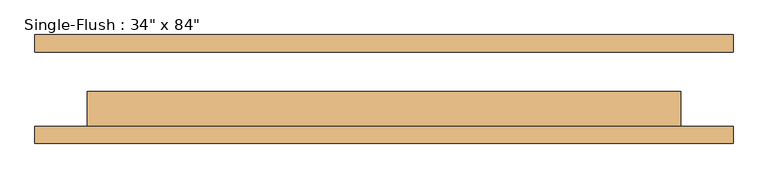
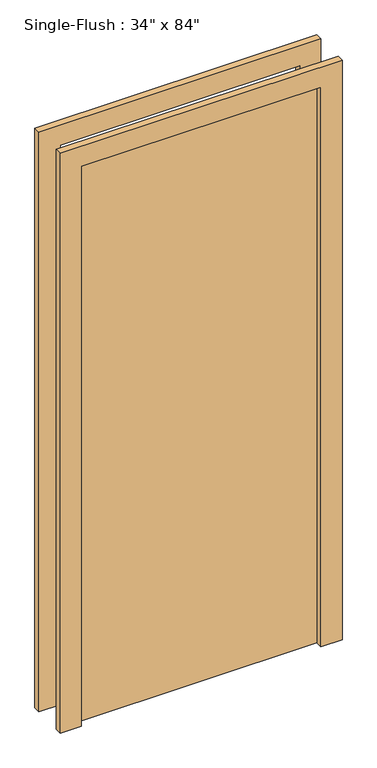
"""IFC4 building model written with IfcOpenShell, lengths in millimetres: door geometry."""

import ifcopenshell
import ifcopenshell.guid

model = None  # the IFC model being written
_history = None  # IfcOwnerHistory: only IFC2X3 demands one
_inside = {}  # id of a spatial element -> (the spatial element, [elements in it])
_under = {}  # id of a project, library or spatial element -> (it, [spatial elements below it])
_declared = {}  # id of a project -> (the project, [libraries it declares])
_typed = {}  # id of a type object -> (the type object, [elements of that type])
_made_of = {}  # id of a material, layer set ... -> (it, [elements and type objects made of it])


def new_model(schema):
    """Start an empty IFC model of exactly this schema.

    Asked for "IFC4X3", IfcOpenShell would pick the latest addendum, in which some entities
    have other attributes; the version numbers below select the first issue.
    IFC2X3 requires an IfcOwnerHistory on every rooted entity: one is made here for all.
    """
    global model, _history
    if schema == "IFC4X3":
        model = ifcopenshell.file(schema_version=(4, 3, 0, 0))
    else:
        model = ifcopenshell.file(schema=schema)
    _inside.clear()
    _under.clear()
    _declared.clear()
    _typed.clear()
    _made_of.clear()
    _history = None
    if model.schema == "IFC2X3":
        org = make("IfcOrganization", Name="unknown")
        user = make(
            "IfcPersonAndOrganization",
            ThePerson=make("IfcPerson", FamilyName="unknown"),
            TheOrganization=org,
        )
        app = make(
            "IfcApplication",
            ApplicationDeveloper=org,
            Version="unknown",
            ApplicationFullName="unknown",
            ApplicationIdentifier="unknown",
        )
        _history = make(
            "IfcOwnerHistory",
            OwningUser=user,
            OwningApplication=app,
            ChangeAction="ADDED",
            CreationDate=0,
        )
    return model


def make(cls, **values):
    """One entity of the class cls with the attributes given. An attribute that is None is left unset."""
    return model.create_entity(
        cls, **{name: value for name, value in values.items() if value is not None}
    )


def rooted(cls, **values):
    """An entity with a GlobalId (a new one), such as an element, a storey or a relation."""
    return make(cls, GlobalId=ifcopenshell.guid.new(), OwnerHistory=_history, **values)


def si_unit(unit_type, name, prefix=None):
    """IfcSIUnit, for example si_unit("LENGTHUNIT", "METRE", prefix="MILLI")."""
    return make("IfcSIUnit", UnitType=unit_type, Prefix=prefix, Name=name)


def assignment(units):
    """IfcUnitAssignment: the units of a project."""
    return None if units is None else make("IfcUnitAssignment", Units=units)


def point(xyz):
    """IfcCartesianPoint."""
    return None if xyz is None else make("IfcCartesianPoint", Coordinates=xyz)


def direction(xyz):
    """IfcDirection."""
    return None if xyz is None else make("IfcDirection", DirectionRatios=xyz)


def frame(location, z_axis=None, x_axis=None):
    """IfcAxis2Placement3D, a coordinate frame: its origin and axes. An axis left out is left unset."""
    return make(
        "IfcAxis2Placement3D",
        Location=point(location),
        Axis=direction(z_axis),
        RefDirection=direction(x_axis),
    )


def origin():
    """The frame at (0, 0, 0) with its axes left unset."""
    return frame((0.0, 0.0, 0.0))


def origin_with_axes():
    """The frame at (0, 0, 0) with the z axis (0, 0, 1) and the x axis (1, 0, 0) written out."""
    return frame((0.0, 0.0, 0.0), z_axis=(0.0, 0.0, 1.0), x_axis=(1.0, 0.0, 0.0))


def place(relative_to, where):
    """IfcLocalPlacement: puts the frame where relative to a parent placement (None: the world)."""
    return make(
        "IfcLocalPlacement", PlacementRelTo=relative_to, RelativePlacement=where
    )


def context(
    kind, dimensions, precision=None, world=None, true_north=None, identifier=None
):
    """IfcGeometricRepresentationContext, for example the 3D "Model" context."""
    return make(
        "IfcGeometricRepresentationContext",
        ContextIdentifier=identifier,
        ContextType=kind,
        CoordinateSpaceDimension=dimensions,
        Precision=precision,
        WorldCoordinateSystem=world,
        TrueNorth=true_north,
    )


def project(units=None, contexts=None):
    """IfcProject with its units and contexts."""
    return rooted(
        "IfcProject",
        Name="project",
        RepresentationContexts=contexts,
        UnitsInContext=assignment(units),
    )


def spatial(cls, under=None, at=None, **own):
    """A site, building, storey or space (cls), placed at a placement, below another one or the project."""
    s = rooted(cls, ObjectPlacement=at, **own)
    if under is not None:
        _under.setdefault(under.id(), (under, []))[1].append(s)
    return s


def polyline(points):
    """IfcPolyline through the points."""
    return make("IfcPolyline", Points=[point(p) for p in points])


def outline(outer, holes=None, kind="AREA"):
    """IfcArbitraryClosedProfileDef: a profile drawn as a closed curve; with holes, ...WithVoids."""
    if holes is None:
        return make("IfcArbitraryClosedProfileDef", ProfileType=kind, OuterCurve=outer)
    return make(
        "IfcArbitraryProfileDefWithVoids",
        ProfileType=kind,
        OuterCurve=outer,
        InnerCurves=holes,
    )


def extrude(swept, where, along, depth):
    """IfcExtrudedAreaSolid: the profile swept, set in the frame where, extruded along a direction by depth."""
    return make(
        "IfcExtrudedAreaSolid",
        SweptArea=swept,
        Position=where,
        ExtrudedDirection=direction(along),
        Depth=depth,
    )


def shape(context_of_items, identifier, shape_type, items):
    """IfcShapeRepresentation: the items that make up one representation, for example the "Body"."""
    return make(
        "IfcShapeRepresentation",
        ContextOfItems=context_of_items,
        RepresentationIdentifier=identifier,
        RepresentationType=shape_type,
        Items=items,
    )


def source(mapping_origin, context_of_items, identifier, shape_type, items):
    """IfcRepresentationMap: a shape defined once, which mapped items show again and again."""
    return make(
        "IfcRepresentationMap",
        MappingOrigin=mapping_origin,
        MappedRepresentation=shape(context_of_items, identifier, shape_type, items),
    )


def transform(
    local_origin,
    x_axis=None,
    y_axis=None,
    z_axis=None,
    scale=None,
    scale2=None,
    scale3=None,
    uniform=True,
):
    """IfcCartesianTransformationOperator3D, or its non-uniform kind. x_axis, y_axis, z_axis: its Axis1, 2, 3."""
    if uniform:
        return make(
            "IfcCartesianTransformationOperator3D",
            Axis1=direction(x_axis),
            Axis2=direction(y_axis),
            LocalOrigin=point(local_origin),
            Scale=scale,
            Axis3=direction(z_axis),
        )
    return make(
        "IfcCartesianTransformationOperator3DnonUniform",
        Axis1=direction(x_axis),
        Axis2=direction(y_axis),
        LocalOrigin=point(local_origin),
        Scale=scale,
        Axis3=direction(z_axis),
        Scale2=scale2,
        Scale3=scale3,
    )


def mapped(mapping_source, mapping_target):
    """IfcMappedItem: shows the shape of a source again, moved by a transform."""
    return make(
        "IfcMappedItem", MappingSource=mapping_source, MappingTarget=mapping_target
    )


def made_of(thing, what):
    """Note that an element or type object is made of a material, layer set ...; save() writes the relation."""
    if what is not None:
        _made_of.setdefault(what.id(), (what, []))[1].append(thing)
    return thing


def element(
    cls,
    number,
    at=None,
    inside=None,
    cuts=None,
    type_object=None,
    material=None,
    context=None,
    identifier="Body",
    shape_type=None,
    held_by="IfcProductDefinitionShape",
    body=None,
    shapes=None,
    **own,
):
    """One element of the class cls, such as IfcWall. Its Tag is "e" and its number.

    at: its placement. inside: the storey or other place that contains it. cuts: it is an
    opening in that element (IfcRelVoidsElement). A single representation is given by context,
    identifier, shape_type and body (its items); several are given by shapes. held_by: the class
    of the entity that holds the representations. save() writes the other relations.
    """
    e = rooted(cls, Tag="e%d" % number, ObjectPlacement=at, **own)
    if body is not None:
        shapes = [shape(context, identifier, shape_type, body)]
    if shapes is not None:
        e.Representation = make(held_by, Representations=shapes)
    if inside is not None:
        _inside.setdefault(inside.id(), (inside, []))[1].append(e)
    if cuts is not None:
        rooted(
            "IfcRelVoidsElement", RelatingBuildingElement=cuts, RelatedOpeningElement=e
        )
    if type_object is not None:
        _typed.setdefault(type_object.id(), (type_object, []))[1].append(e)
    return made_of(e, material)


def aggregate(whole, parts):
    """IfcRelAggregates: a whole, such as a stair, and the parts it consists of."""
    return rooted("IfcRelAggregates", RelatingObject=whole, RelatedObjects=parts)


def save(model, path):
    """Write the relations noted so far, then the file.

    IfcRelAggregates (storeys below a building ...), IfcRelContainedInSpatialStructure (elements
    in a storey), IfcRelDefinesByType, IfcRelAssociatesMaterial and IfcRelDeclares: one each for
    every whole, place, type object, material and project.
    """
    for whole, parts in _under.values():
        aggregate(whole, parts)
    for where, things in _inside.values():
        rooted(
            "IfcRelContainedInSpatialStructure",
            RelatedElements=things,
            RelatingStructure=where,
        )
    for kind, things in _typed.values():
        rooted("IfcRelDefinesByType", RelatedObjects=things, RelatingType=kind)
    for what, things in _made_of.values():
        rooted("IfcRelAssociatesMaterial", RelatedObjects=things, RelatingMaterial=what)
    for by, libraries in _declared.values():
        rooted("IfcRelDeclares", RelatingContext=by, RelatedDefinitions=libraries)
    model.write(path)


def door_32697e37(model_context):
    return source(origin(), model_context, "Body", "SweptSolid", [
        extrude(outline(polyline([(2209.8, -508.0), (0.0, -508.0), (0.0, -431.8), (2133.6, -431.8), (2133.6, 431.8), (0.0, 431.8), (0.0, 508.0), (2209.8, 508.0), (2209.8, -508.0)])), frame((0.0, -79.375, 0.0), z_axis=(0.0, 1.0, 0.0), x_axis=(0.0, 0.0, 1.0)), (0.0, 0.0, 1.0), 25.4),
        extrude(outline(polyline([(2209.8, 508.0), (2209.8, -508.0), (0.0, -508.0), (0.0, -431.8), (2133.6, -431.8), (2133.6, 431.8), (0.0, 431.8), (0.0, 508.0), (2209.8, 508.0)])), frame((0.0, 53.975, 0.0), z_axis=(0.0, 1.0, 0.0), x_axis=(0.0, 0.0, 1.0)), (0.0, 0.0, 1.0), 25.4),
        extrude(outline(polyline([(431.8, -3.175), (431.8, -53.975), (-431.8, -53.975), (-431.8, -3.175), (431.8, -3.175)])), origin_with_axes(), (0.0, 0.0, 1.0), 2133.6),
    ])


if __name__ == "__main__":
    model = new_model("IFC4")
    model_context = context("Model", 3, world=origin())
    ifc_project = project(units=[si_unit("LENGTHUNIT", "METRE", prefix="MILLI")], contexts=[model_context])
    site = spatial("IfcSite", under=ifc_project)
    building = spatial("IfcBuilding", under=site)
    placement = place(None, origin())
    door_shape = door_32697e37(model_context)
    element("IfcDoor", 1, ObjectType="Single-Flush : 34\" x 84\"", at=placement, inside=building, context=model_context, shape_type="MappedRepresentation", body=[
        mapped(door_shape, transform((0.0, 0.0, 0.0), x_axis=(1.0, 0.0, 0.0), y_axis=(0.0, 1.0, 0.0), z_axis=(0.0, 0.0, 1.0))),
    ])
    save(model, "model.ifc")
